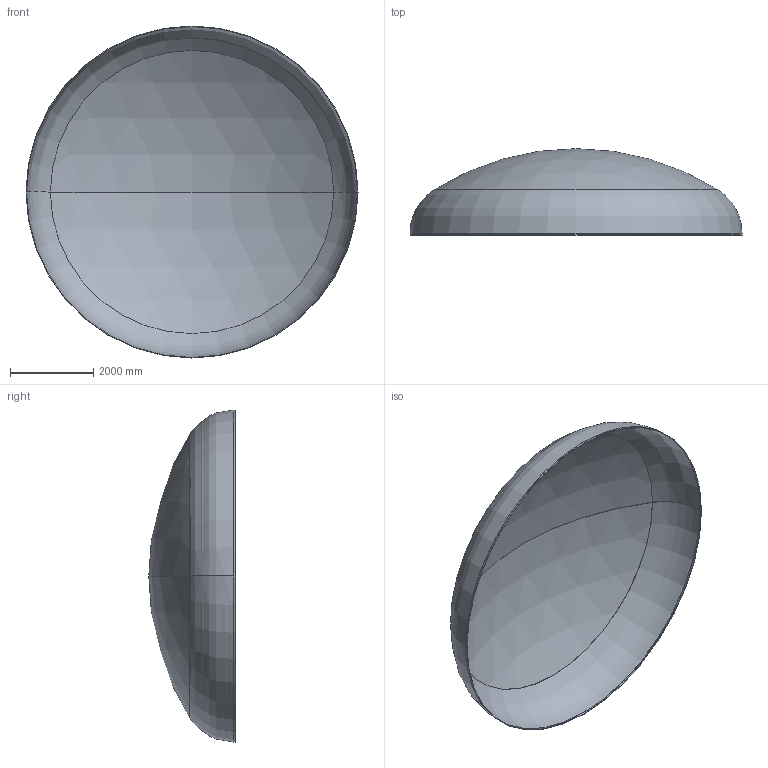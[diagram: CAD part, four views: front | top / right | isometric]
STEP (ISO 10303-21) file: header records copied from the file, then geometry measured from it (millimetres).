
FILE_DESCRIPTION (( 'STEP AP203' ), '1' );
FILE_NAME ('DIN 28013 Korbbogenform_-_Boden DIN 28013 - 8000 x 40 - I - s=13.step', '2016-07-04T10:58:32', ( '' ), ( '' ), 'SwSTEP 2.0', 'SolidWorks 2013', '' );
FILE_SCHEMA (( 'CONFIG_CONTROL_DESIGN' ));
Length unit declared in the file: millimetre
Products named in the file (1): DIN 28013 Korbbogenform_-_Boden DIN 28013 - 8000 x 40 - I - s=13
Bounding box: 8000 x 2079.46 x 8000 mm (x, y, z)
Volume: 915932366.8 mm3; surface area: 141239161.8 mm2
Topology: 1 solids, 1 shells, 13 faces, 24 edges, 14 vertices
Faces by surface type: torus 4, cylinder 4, sphere 4, plane 1
Entity records: 407 total; most frequent: DIRECTION 72, CARTESIAN_POINT 52, ORIENTED_EDGE 48, AXIS2_PLACEMENT_3D 34, EDGE_CURVE 24, CIRCLE 20, VERTEX_POINT 14, EDGE_LOOP 14
